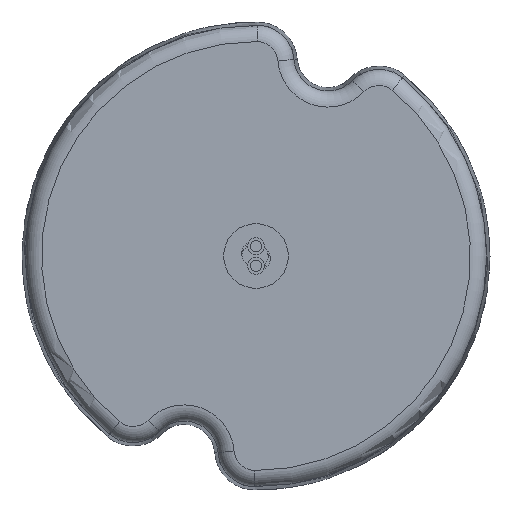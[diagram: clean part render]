
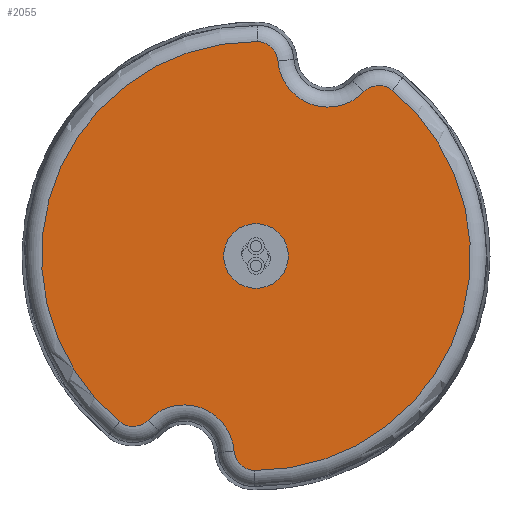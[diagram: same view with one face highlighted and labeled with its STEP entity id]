
A CAD part, front view. The second image highlights one B-rep face of the part: STEP entity #2055.
In plain terms, the highlighted planar face has unit normal (0, -1, 0).
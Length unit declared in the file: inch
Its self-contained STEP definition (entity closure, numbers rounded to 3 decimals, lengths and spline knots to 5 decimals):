
#181=CARTESIAN_POINT('',(-0.59869,0.,-0.72846));
#182=DIRECTION('',(0.,1.,0.));
#183=DIRECTION('',(0.717,0.,-0.697));
#184=AXIS2_PLACEMENT_3D('',#181,#182,#183);
#190=CARTESIAN_POINT('',(0.,0.,0.));
#191=DIRECTION('',(0.,1.,0.));
#192=DIRECTION('',(-0.635,0.,-0.773));
#193=AXIS2_PLACEMENT_3D('',#190,#191,#192);
#198=CARTESIAN_POINT('',(0.005,0.,0.9429));
#199=DIRECTION('',(0.,1.,0.));
#200=DIRECTION('',(0.005,0.,1.));
#201=AXIS2_PLACEMENT_3D('',#198,#199,#200);
#206=CARTESIAN_POINT('',(0.35039,0.,0.97008));
#207=DIRECTION('',(0.,-1.,0.));
#208=DIRECTION('',(-0.997,0.,-0.078));
#209=AXIS2_PLACEMENT_3D('',#206,#207,#208);
#214=CARTESIAN_POINT('',(0.59869,0.,0.72846));
#215=DIRECTION('',(0.,1.,0.));
#216=DIRECTION('',(-0.717,0.,0.697));
#217=AXIS2_PLACEMENT_3D('',#214,#215,#216);
#222=CARTESIAN_POINT('',(0.,0.,0.));
#223=DIRECTION('',(0.,1.,0.));
#224=DIRECTION('',(0.635,0.,0.773));
#225=AXIS2_PLACEMENT_3D('',#222,#223,#224);
#230=CARTESIAN_POINT('',(-0.005,0.,-0.9429));
#231=DIRECTION('',(0.,1.,0.));
#232=DIRECTION('',(-0.005,0.,-1.));
#233=AXIS2_PLACEMENT_3D('',#230,#231,#232);
#238=CARTESIAN_POINT('',(-0.35039,0.,-0.97008));
#239=DIRECTION('',(0.,-1.,0.));
#240=DIRECTION('',(0.997,0.,0.078));
#241=AXIS2_PLACEMENT_3D('',#238,#239,#240);
#246=CARTESIAN_POINT('',(0.,0.,0.));
#247=DIRECTION('',(0.,-1.,0.));
#248=DIRECTION('',(-1.,0.,0.));
#249=AXIS2_PLACEMENT_3D('',#246,#247,#248);
#254=CARTESIAN_POINT('',(0.,0.,0.));
#255=DIRECTION('',(0.,-1.,0.));
#256=DIRECTION('',(1.,0.,0.));
#257=AXIS2_PLACEMENT_3D('',#254,#255,#256);
#1785=CARTESIAN_POINT('',(-0.52578,0.,-0.79941));
#1786=CARTESIAN_POINT('',(-0.66329,0.,-0.80706));
#1787=VERTEX_POINT('',#1785);
#1788=VERTEX_POINT('',#1786);
#1789=CARTESIAN_POINT('',(0.00554,0.,1.04464));
#1790=VERTEX_POINT('',#1789);
#1791=CARTESIAN_POINT('',(0.10643,0.,0.95088));
#1792=VERTEX_POINT('',#1791);
#1793=CARTESIAN_POINT('',(0.52578,0.,0.79941));
#1794=VERTEX_POINT('',#1793);
#1795=CARTESIAN_POINT('',(0.66329,0.,0.80706));
#1796=VERTEX_POINT('',#1795);
#1797=CARTESIAN_POINT('',(-0.00554,0.,-1.04464));
#1798=VERTEX_POINT('',#1797);
#1799=CARTESIAN_POINT('',(-0.10643,0.,-0.95088));
#1800=VERTEX_POINT('',#1799);
#1801=CARTESIAN_POINT('',(-0.15748,0.,0.));
#1802=CARTESIAN_POINT('',(0.15748,0.,0.));
#1803=VERTEX_POINT('',#1801);
#1804=VERTEX_POINT('',#1802);
#2026=CARTESIAN_POINT('',(0.,0.,0.));
#2027=DIRECTION('',(0.,1.,0.));
#2028=DIRECTION('',(1.,0.,0.));
#2029=AXIS2_PLACEMENT_3D('',#2026,#2027,#2028);
#2030=PLANE('',#2029);
#2032=ORIENTED_EDGE('',*,*,#2031,.T.);
#2034=ORIENTED_EDGE('',*,*,#2033,.T.);
#2036=ORIENTED_EDGE('',*,*,#2035,.T.);
#2038=ORIENTED_EDGE('',*,*,#2037,.T.);
#2040=ORIENTED_EDGE('',*,*,#2039,.T.);
#2042=ORIENTED_EDGE('',*,*,#2041,.T.);
#2044=ORIENTED_EDGE('',*,*,#2043,.T.);
#2046=ORIENTED_EDGE('',*,*,#2045,.T.);
#2047=EDGE_LOOP('',(#2032,#2034,#2036,#2038,#2040,#2042,#2044,#2046));
#2048=FACE_OUTER_BOUND('',#2047,.F.);
#2050=ORIENTED_EDGE('',*,*,#2049,.T.);
#2052=ORIENTED_EDGE('',*,*,#2051,.T.);
#2053=EDGE_LOOP('',(#2050,#2052));
#2054=FACE_BOUND('',#2053,.F.);
#2055=ADVANCED_FACE('',(#2048,#2054),#2030,.F.);
#185=CIRCLE('',#184,0.10174);
#194=CIRCLE('',#193,1.04466);
#202=CIRCLE('',#201,0.10174);
#210=CIRCLE('',#209,0.24471);
#218=CIRCLE('',#217,0.10174);
#226=CIRCLE('',#225,1.04466);
#234=CIRCLE('',#233,0.10174);
#242=CIRCLE('',#241,0.24471);
#250=CIRCLE('',#249,0.15748);
#258=CIRCLE('',#257,0.15748);
#2031=EDGE_CURVE('',#1787,#1788,#185,.T.);
#2033=EDGE_CURVE('',#1788,#1790,#194,.T.);
#2035=EDGE_CURVE('',#1790,#1792,#202,.T.);
#2037=EDGE_CURVE('',#1792,#1794,#210,.T.);
#2039=EDGE_CURVE('',#1794,#1796,#218,.T.);
#2041=EDGE_CURVE('',#1796,#1798,#226,.T.);
#2043=EDGE_CURVE('',#1798,#1800,#234,.T.);
#2045=EDGE_CURVE('',#1800,#1787,#242,.T.);
#2049=EDGE_CURVE('',#1803,#1804,#250,.T.);
#2051=EDGE_CURVE('',#1804,#1803,#258,.T.);
